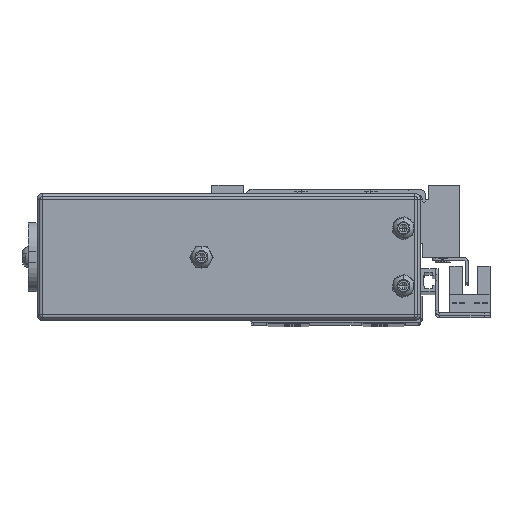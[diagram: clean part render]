
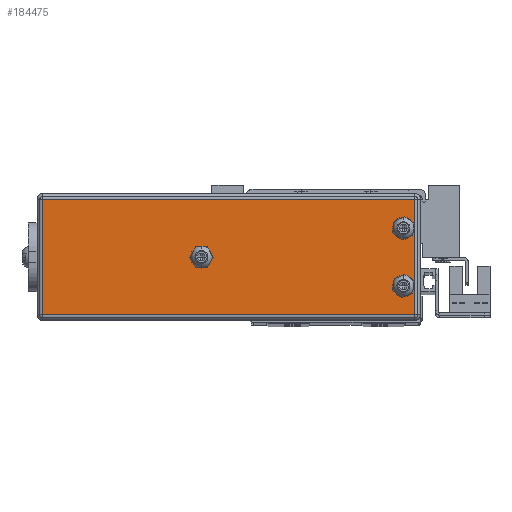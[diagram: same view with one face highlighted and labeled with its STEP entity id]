
A CAD part, top view. The second image highlights one B-rep face of the part: STEP entity #184475.
In plain terms, the highlighted planar face has unit normal (0, 0, 1).
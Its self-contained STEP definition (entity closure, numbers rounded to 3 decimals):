
#2149 = DIRECTION ( 'NONE',  ( 1., 0., 0. ) ) ;
#6765 = CARTESIAN_POINT ( 'NONE',  ( -112.411, 20.921, 163. ) ) ;
#7045 = DIRECTION ( 'NONE',  ( -1., 0., 0. ) ) ;
#7064 = LINE ( 'NONE', #90324, #69206 ) ;
#8995 = CIRCLE ( 'NONE', #92576, 2.25 ) ;
#9201 = AXIS2_PLACEMENT_3D ( 'NONE', #34081, #75030, #48366 ) ;
#17387 = VECTOR ( 'NONE', #102635, 1000. ) ;
#17727 = CIRCLE ( 'NONE', #9201, 2.25 ) ;
#21914 = FACE_BOUND ( 'NONE', #37346, .T. ) ;
#22297 = VERTEX_POINT ( 'NONE', #55313 ) ;
#24999 = VERTEX_POINT ( 'NONE', #120351 ) ;
#31669 = AXIS2_PLACEMENT_3D ( 'NONE', #115638, #131187, #100725 ) ;
#34081 = CARTESIAN_POINT ( 'NONE',  ( -110.161, 0.921, 163. ) ) ;
#34296 = VERTEX_POINT ( 'NONE', #105410 ) ;
#34426 = CIRCLE ( 'NONE', #167655, 2.25 ) ;
#37346 = EDGE_LOOP ( 'NONE', ( #43710, #104314 ) ) ;
#41031 = CARTESIAN_POINT ( 'NONE',  ( -114.161, -11.079, 163. ) ) ;
#41084 = EDGE_CURVE ( 'NONE', #109512, #22297, #34426, .T. ) ;
#43710 = ORIENTED_EDGE ( 'NONE', *, *, #97929, .F. ) ;
#45075 = VERTEX_POINT ( 'NONE', #170422 ) ;
#46372 = DIRECTION ( 'NONE',  ( 1., 0., 0. ) ) ;
#47455 = ORIENTED_EDGE ( 'NONE', *, *, #127551, .T. ) ;
#48366 = DIRECTION ( 'NONE',  ( 1., 0., 0. ) ) ;
#52368 = DIRECTION ( 'NONE',  ( 1., 0., 0. ) ) ;
#53331 = EDGE_LOOP ( 'NONE', ( #147546, #124128 ) ) ;
#54043 = EDGE_CURVE ( 'NONE', #67349, #34296, #153180, .T. ) ;
#55313 = CARTESIAN_POINT ( 'NONE',  ( -37.911, 10.921, 163. ) ) ;
#57479 = EDGE_CURVE ( 'NONE', #146178, #79621, #17727, .T. ) ;
#58493 = CARTESIAN_POINT ( 'NONE',  ( -116.161, -9.079, 163. ) ) ;
#59148 = CARTESIAN_POINT ( 'NONE',  ( -40.161, 10.921, 163. ) ) ;
#59651 = FACE_BOUND ( 'NONE', #53331, .T. ) ;
#60100 = CARTESIAN_POINT ( 'NONE',  ( -110.161, 20.921, 163. ) ) ;
#61018 = DIRECTION ( 'NONE',  ( 0., 0., 1. ) ) ;
#65685 = EDGE_CURVE ( 'NONE', #34296, #45075, #104484, .T. ) ;
#67349 = VERTEX_POINT ( 'NONE', #96762 ) ;
#67820 = DIRECTION ( 'NONE',  ( 0., 0., 1. ) ) ;
#69206 = VECTOR ( 'NONE', #7045, 1000. ) ;
#70539 = AXIS2_PLACEMENT_3D ( 'NONE', #59148, #61018, #160518 ) ;
#70810 = CARTESIAN_POINT ( 'NONE',  ( -42.411, 10.921, 163. ) ) ;
#75030 = DIRECTION ( 'NONE',  ( 0., 0., 1. ) ) ;
#79621 = VERTEX_POINT ( 'NONE', #164972 ) ;
#80216 = ORIENTED_EDGE ( 'NONE', *, *, #54043, .T. ) ;
#80927 = CARTESIAN_POINT ( 'NONE',  ( -110.161, 0.921, 163. ) ) ;
#84417 = VECTOR ( 'NONE', #162051, 1000. ) ;
#87850 = DIRECTION ( 'NONE',  ( 1., 0., 0. ) ) ;
#88677 = VECTOR ( 'NONE', #99383, 1000. ) ;
#90324 = CARTESIAN_POINT ( 'NONE',  ( -116.161, 30.921, 163. ) ) ;
#92576 = AXIS2_PLACEMENT_3D ( 'NONE', #130169, #117072, #2149 ) ;
#93741 = CIRCLE ( 'NONE', #70539, 2.25 ) ;
#96043 = EDGE_CURVE ( 'NONE', #79621, #146178, #161613, .T. ) ;
#96762 = CARTESIAN_POINT ( 'NONE',  ( -114.161, -9.079, 163. ) ) ;
#97929 = EDGE_CURVE ( 'NONE', #22297, #109512, #93741, .T. ) ;
#99304 = CIRCLE ( 'NONE', #106971, 2.25 ) ;
#99364 = FACE_OUTER_BOUND ( 'NONE', #139304, .T. ) ;
#99383 = DIRECTION ( 'NONE',  ( 0., -1., 0. ) ) ;
#100725 = DIRECTION ( 'NONE',  ( -1., 0., 0. ) ) ;
#102635 = DIRECTION ( 'NONE',  ( 1., 0., 0. ) ) ;
#102921 = EDGE_CURVE ( 'NONE', #24999, #67349, #142062, .T. ) ;
#103769 = ORIENTED_EDGE ( 'NONE', *, *, #57479, .F. ) ;
#104314 = ORIENTED_EDGE ( 'NONE', *, *, #41084, .F. ) ;
#104484 = LINE ( 'NONE', #175797, #84417 ) ;
#105410 = CARTESIAN_POINT ( 'NONE',  ( 14.839, -9.079, 163. ) ) ;
#106646 = EDGE_CURVE ( 'NONE', #133302, #140622, #99304, .T. ) ;
#106971 = AXIS2_PLACEMENT_3D ( 'NONE', #60100, #116623, #46372 ) ;
#109512 = VERTEX_POINT ( 'NONE', #70810 ) ;
#111121 = ORIENTED_EDGE ( 'NONE', *, *, #96043, .F. ) ;
#115638 = CARTESIAN_POINT ( 'NONE',  ( -116.161, -11.079, 163. ) ) ;
#116623 = DIRECTION ( 'NONE',  ( 0., 0., 1. ) ) ;
#117072 = DIRECTION ( 'NONE',  ( 0., 0., 1. ) ) ;
#117636 = ORIENTED_EDGE ( 'NONE', *, *, #102921, .T. ) ;
#119127 = AXIS2_PLACEMENT_3D ( 'NONE', #80927, #67820, #52368 ) ;
#120351 = CARTESIAN_POINT ( 'NONE',  ( -114.161, 30.921, 163. ) ) ;
#124128 = ORIENTED_EDGE ( 'NONE', *, *, #106646, .F. ) ;
#124986 = ORIENTED_EDGE ( 'NONE', *, *, #65685, .T. ) ;
#126285 = PLANE ( 'NONE',  #31669 ) ;
#126976 = CARTESIAN_POINT ( 'NONE',  ( -107.911, 20.921, 163. ) ) ;
#127551 = EDGE_CURVE ( 'NONE', #45075, #24999, #7064, .T. ) ;
#130169 = CARTESIAN_POINT ( 'NONE',  ( -110.161, 20.921, 163. ) ) ;
#131187 = DIRECTION ( 'NONE',  ( 0., 0., -1. ) ) ;
#131396 = CARTESIAN_POINT ( 'NONE',  ( -40.161, 10.921, 163. ) ) ;
#133302 = VERTEX_POINT ( 'NONE', #6765 ) ;
#139304 = EDGE_LOOP ( 'NONE', ( #124986, #47455, #117636, #80216 ) ) ;
#140622 = VERTEX_POINT ( 'NONE', #126976 ) ;
#142062 = LINE ( 'NONE', #41031, #88677 ) ;
#145728 = DIRECTION ( 'NONE',  ( 0., 0., 1. ) ) ;
#146178 = VERTEX_POINT ( 'NONE', #178007 ) ;
#147546 = ORIENTED_EDGE ( 'NONE', *, *, #172359, .F. ) ;
#153180 = LINE ( 'NONE', #58493, #17387 ) ;
#160518 = DIRECTION ( 'NONE',  ( 1., 0., 0. ) ) ;
#161613 = CIRCLE ( 'NONE', #119127, 2.25 ) ;
#162051 = DIRECTION ( 'NONE',  ( 0., 1., 0. ) ) ;
#164972 = CARTESIAN_POINT ( 'NONE',  ( -112.411, 0.921, 163. ) ) ;
#167655 = AXIS2_PLACEMENT_3D ( 'NONE', #131396, #145728, #87850 ) ;
#168760 = FACE_BOUND ( 'NONE', #178922, .T. ) ;
#170422 = CARTESIAN_POINT ( 'NONE',  ( 14.839, 30.921, 163. ) ) ;
#172359 = EDGE_CURVE ( 'NONE', #140622, #133302, #8995, .T. ) ;
#175797 = CARTESIAN_POINT ( 'NONE',  ( 14.839, -11.079, 163. ) ) ;
#178007 = CARTESIAN_POINT ( 'NONE',  ( -107.911, 0.921, 163. ) ) ;
#178922 = EDGE_LOOP ( 'NONE', ( #103769, #111121 ) ) ;
#184475 = ADVANCED_FACE ( 'NONE', ( #21914, #168760, #59651, #99364 ), #126285, .F. ) ;
